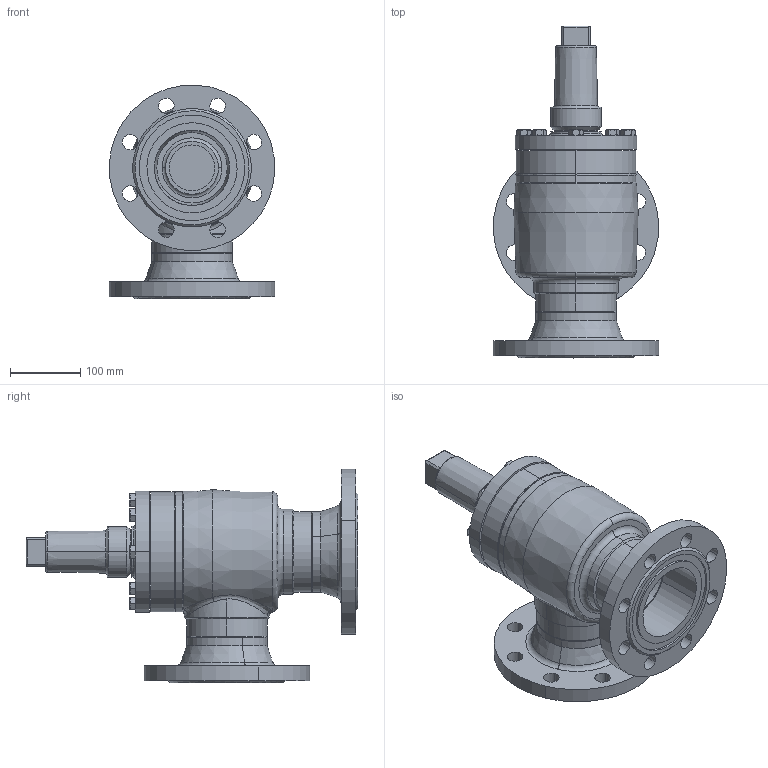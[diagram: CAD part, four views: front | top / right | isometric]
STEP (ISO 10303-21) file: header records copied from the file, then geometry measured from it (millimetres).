
FILE_DESCRIPTION (( 'STEP AP214' ), '1' );
FILE_NAME ('RVA29420D19-DN100_DIN-FL-N_PS40.STEP', '2007-01-08T09:21:34', ( 'Herr Grams' ), ( 'AWP GmbH' ), 'SwSTEP 2.0', 'SolidWorks 2002296', '' );
FILE_SCHEMA (( 'AUTOMOTIVE_DESIGN' ));
Length unit declared in the file: millimetre
Products named in the file (13): RVA29420D19-DN100_DIN-FL-N_PS40; Gehäuse-kpl16420-DN100_DIN_PS40_Standard; Gehäuse-kpl16400-DN100_R1_Standard; bead-DN100-1_Standard; Gehäuse16400-DN100_Standard; Kopfstück16300-DN100_Standard; Flansch-DIN-Nut_PS40_DIN-Flansch-DN100_PS40-Nut; bead-DN100-4_Standard; bead-DN100-3_Standard; RVA29300E19_Deck-Schr-DN100_Standard; Deckel29300E19-DN100_Standard; Sechskantschraube-DIN933_M12x 35; Kappe16402_DN080-100_Standard
Assembly tree (20 placements, depth 4):
  RVA29420D19-DN100_DIN-FL-N_PS40
    Kappe16402_DN080-100_Standard
    RVA29300E19_Deck-Schr-DN100_Standard
      Sechskantschraube-DIN933_M12x 35  x8
      Deckel29300E19-DN100_Standard
    Gehäuse-kpl16420-DN100_DIN_PS40_Standard
      Flansch-DIN-Nut_PS40_DIN-Flansch-DN100_PS40-Nut  x2
      bead-DN100-3_Standard
      bead-DN100-4_Standard
      Gehäuse-kpl16400-DN100_R1_Standard
        bead-DN100-1_Standard
        Kopfstück16300-DN100_Standard
        Gehäuse16400-DN100_Standard
Bounding box: 234.78 x 471 x 303.39 mm (x, y, z)
Volume: 4665782.1 mm3; surface area: 711390.6 mm2
Topology: 17 solids, 17 shells, 438 faces, 984 edges, 595 vertices
Faces by surface type: cylinder 143, cone 140, plane 119, torus 18, bspline 18
Entity records: 19784 total; most frequent: CARTESIAN_POINT 13815, DIRECTION 1161, ORIENTED_EDGE 1032, EDGE_CURVE 516, AXIS2_PLACEMENT_3D 509, VERTEX_POINT 321, EDGE_LOOP 283, CIRCLE 276
